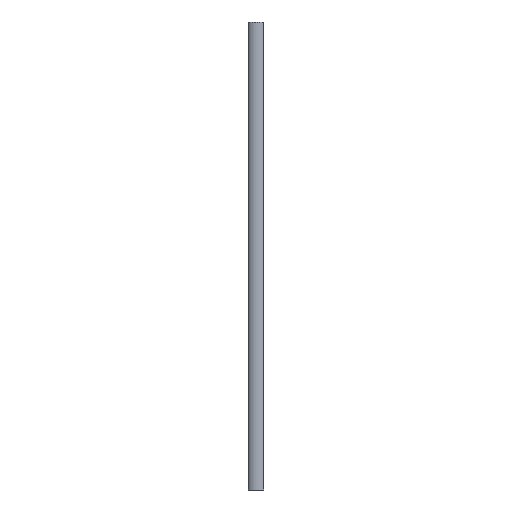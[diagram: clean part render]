
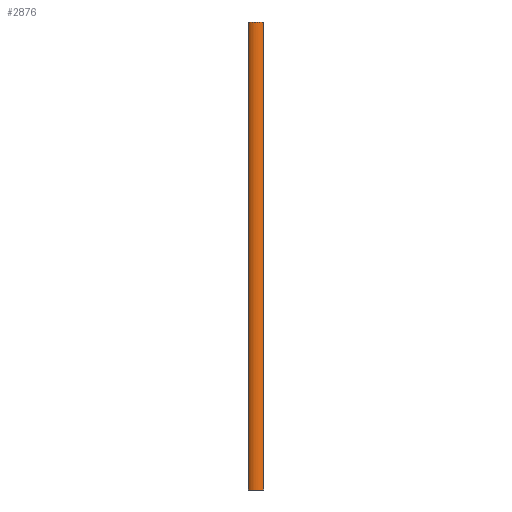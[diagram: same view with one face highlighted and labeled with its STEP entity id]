
A CAD part, front view. The second image highlights one B-rep face of the part: STEP entity #2876.
In plain terms, the highlighted cylindrical face has radius 45 mm (diameter 90 mm), a partial arc.
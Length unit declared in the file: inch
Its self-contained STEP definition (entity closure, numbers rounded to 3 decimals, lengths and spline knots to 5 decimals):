
#455=CARTESIAN_POINT('',(0.,0.,-78.74004));
#456=DIRECTION('',(0.,0.,-1.));
#457=DIRECTION('',(0.711,-0.703,0.));
#458=AXIS2_PLACEMENT_3D('',#455,#456,#457);
#662=CARTESIAN_POINT('',(0.,0.,0.));
#663=DIRECTION('',(0.,0.,1.));
#664=DIRECTION('',(-0.711,-0.703,0.));
#665=AXIS2_PLACEMENT_3D('',#662,#663,#664);
#983=CARTESIAN_POINT('',(1.25984,-1.24561,-19.66504));
#984=CARTESIAN_POINT('',(1.26029,-1.24515,-19.66504));
#985=CARTESIAN_POINT('',(1.2612,-1.24424,-19.66504));
#986=CARTESIAN_POINT('',(1.26211,-1.24332,-19.66504));
#987=CARTESIAN_POINT('',(1.26256,-1.24286,-19.66504));
#992=DIRECTION('',(0.,0.,-1.));
#993=VECTOR('',#992,59.075);
#994=CARTESIAN_POINT('',(1.25984,-1.24561,-19.66504));
#995=LINE('',#994,#993);
#999=CARTESIAN_POINT('',(-1.26256,-1.24286,
-19.66504));
#1000=CARTESIAN_POINT('',(-1.26211,-1.24332,
-19.66504));
#1001=CARTESIAN_POINT('',(-1.2612,-1.24424,
-19.66504));
#1002=CARTESIAN_POINT('',(-1.26029,-1.24515,
-19.66504));
#1003=CARTESIAN_POINT('',(-1.25984,-1.24561,
-19.66504));
#1008=CARTESIAN_POINT('',(-1.25984,-1.24561,0.));
#1009=CARTESIAN_POINT('',(-1.26075,-1.2447,
-0.00091));
#1010=CARTESIAN_POINT('',(-1.26165,-1.24378,
-0.00181));
#1011=CARTESIAN_POINT('',(-1.26256,-1.24286,
-0.00272));
#1016=CARTESIAN_POINT('',(1.26256,-1.24286,
-0.00272));
#1017=CARTESIAN_POINT('',(1.26165,-1.24378,
-0.00181));
#1018=CARTESIAN_POINT('',(1.26075,-1.2447,
-0.00091));
#1019=CARTESIAN_POINT('',(1.25984,-1.24561,0.));
#1046=DIRECTION('',(0.,0.,-1.));
#1047=VECTOR('',#1046,19.66232);
#1048=CARTESIAN_POINT('',(1.26256,-1.24286,
-0.00272));
#1049=LINE('',#1048,#1047);
#1060=CARTESIAN_POINT('',(1.26256,-1.24286,
-0.00272));
#1527=DIRECTION('',(0.,0.,1.));
#1528=VECTOR('',#1527,19.66232);
#1529=CARTESIAN_POINT('',(-1.26256,-1.24286,
-19.66504));
#1530=LINE('',#1529,#1528);
#1541=DIRECTION('',(0.,0.,-1.));
#1542=VECTOR('',#1541,59.075);
#1543=CARTESIAN_POINT('',(-1.25984,-1.24561,
-19.66504));
#1544=LINE('',#1543,#1542);
#2146=VERTEX_POINT('',#1060);
#2168=VERTEX_POINT('',#1019);
#2211=CARTESIAN_POINT('',(-1.25984,-1.24561,0.));
#2212=VERTEX_POINT('',#2211);
#2213=VERTEX_POINT('',#1011);
#2347=CARTESIAN_POINT('',(1.25984,-1.24561,
-78.74004));
#2348=VERTEX_POINT('',#2347);
#2349=CARTESIAN_POINT('',(-1.25984,-1.24561,
-78.74004));
#2350=VERTEX_POINT('',#2349);
#2393=CARTESIAN_POINT('',(1.26256,-1.24286,
-19.66504));
#2395=VERTEX_POINT('',#2393);
#2397=VERTEX_POINT('',#999);
#2398=VERTEX_POINT('',#1003);
#2399=VERTEX_POINT('',#983);
#2851=CARTESIAN_POINT('',(0.,0.,-157.48031));
#2852=DIRECTION('',(0.,0.,1.));
#2853=DIRECTION('',(1.,0.,0.));
#2854=AXIS2_PLACEMENT_3D('',#2851,#2852,#2853);
#2855=CYLINDRICAL_SURFACE('',#2854,1.77165);
#2857=ORIENTED_EDGE('',*,*,#2856,.F.);
#2859=ORIENTED_EDGE('',*,*,#2858,.T.);
#2860=ORIENTED_EDGE('',*,*,#2516,.T.);
#2862=ORIENTED_EDGE('',*,*,#2861,.F.);
#2864=ORIENTED_EDGE('',*,*,#2863,.F.);
#2866=ORIENTED_EDGE('',*,*,#2865,.T.);
#2868=ORIENTED_EDGE('',*,*,#2867,.F.);
#2869=ORIENTED_EDGE('',*,*,#2714,.T.);
#2871=ORIENTED_EDGE('',*,*,#2870,.F.);
#2873=ORIENTED_EDGE('',*,*,#2872,.T.);
#2874=EDGE_LOOP('',(#2857,#2859,#2860,#2862,#2864,#2866,#2868,#2869,#2871,
#2873));
#2875=FACE_OUTER_BOUND('',#2874,.F.);
#459=CIRCLE('',#458,1.77165);
#666=CIRCLE('',#665,1.77165);
#988=B_SPLINE_CURVE_WITH_KNOTS('',3,(#983,#984,#985,#986,#987),.UNSPECIFIED.,
.T.,.F.,(4,1,4),(0.,0.5,1.),.UNSPECIFIED.);
#1004=B_SPLINE_CURVE_WITH_KNOTS('',3,(#999,#1000,#1001,#1002,#1003),
.UNSPECIFIED.,.T.,.F.,(4,1,4),(0.,0.5,1.),.UNSPECIFIED.);
#1012=B_SPLINE_CURVE_WITH_KNOTS('',3,(#1008,#1009,#1010,#1011),.UNSPECIFIED.,
.T.,.F.,(4,4),(0.,1.),.UNSPECIFIED.);
#1020=B_SPLINE_CURVE_WITH_KNOTS('',3,(#1016,#1017,#1018,#1019),.UNSPECIFIED.,
.T.,.F.,(4,4),(0.,1.),.UNSPECIFIED.);
#2516=EDGE_CURVE('',#2348,#2350,#459,.T.);
#2714=EDGE_CURVE('',#2212,#2168,#666,.T.);
#2856=EDGE_CURVE('',#2399,#2395,#988,.T.);
#2858=EDGE_CURVE('',#2399,#2348,#995,.T.);
#2861=EDGE_CURVE('',#2398,#2350,#1544,.T.);
#2863=EDGE_CURVE('',#2397,#2398,#1004,.T.);
#2865=EDGE_CURVE('',#2397,#2213,#1530,.T.);
#2867=EDGE_CURVE('',#2212,#2213,#1012,.T.);
#2870=EDGE_CURVE('',#2146,#2168,#1020,.T.);
#2872=EDGE_CURVE('',#2146,#2395,#1049,.T.);
#2876=ADVANCED_FACE('',(#2875),#2855,.T.);
